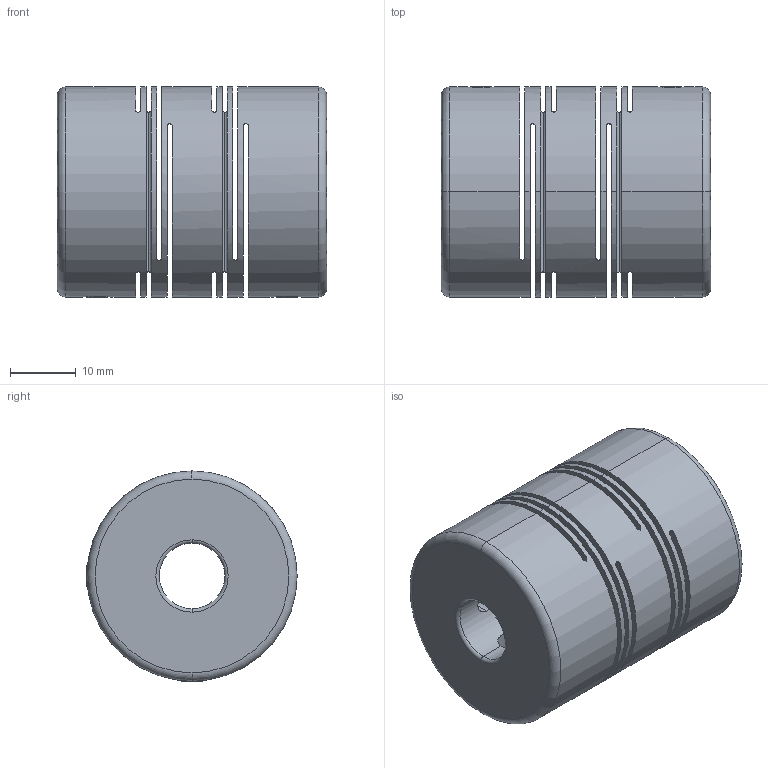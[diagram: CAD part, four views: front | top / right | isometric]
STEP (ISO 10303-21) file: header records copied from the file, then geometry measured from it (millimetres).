
FILE_DESCRIPTION (( 'STEP AP203' ), '1' );
FILE_NAME ('FSMML32-10x11.STEP', '2013-12-28T05:27:29', ( '123' ), ( '' ), 'SwSTEP 2.0', 'SolidWorks 2013', '' );
FILE_SCHEMA (( 'CONFIG_CONTROL_DESIGN' ));
Length unit declared in the file: millimetre
Products named in the file (1): FSMML32-10x11
Bounding box: 41 x 32 x 32 mm (x, y, z)
Surface area: 16063.2 mm2 (no closed solid volume)
Topology: 0 solids, 5 shells, 120 faces, 350 edges, 232 vertices
Faces by surface type: plane 46, cylinder 34, cone 24, bspline 8, torus 8
Entity records: 4955 total; most frequent: CARTESIAN_POINT 1719, DIRECTION 648, ORIENTED_EDGE 640, EDGE_CURVE 350, AXIS2_PLACEMENT_3D 249, VERTEX_POINT 232, LINE 150, VECTOR 150
